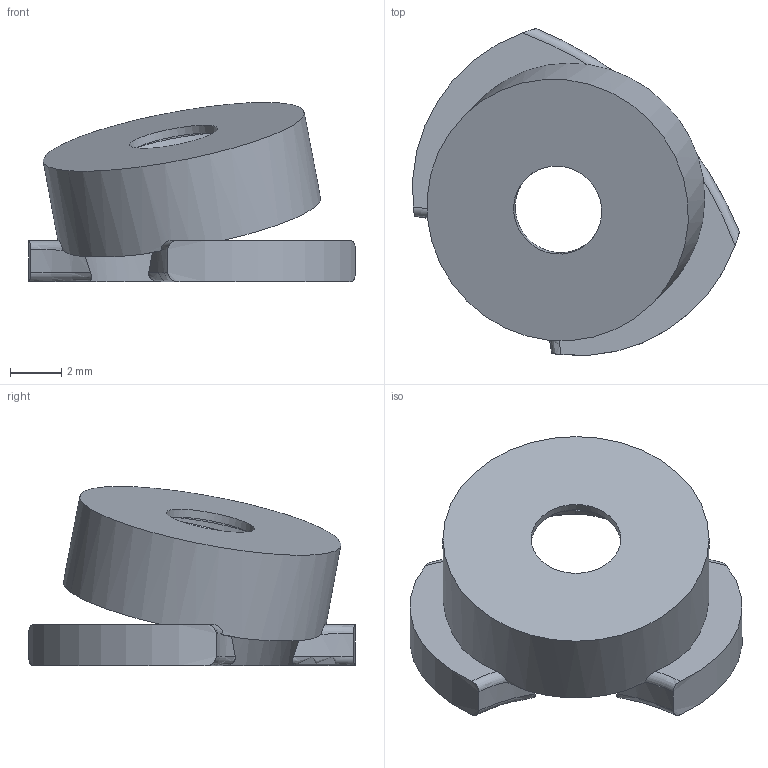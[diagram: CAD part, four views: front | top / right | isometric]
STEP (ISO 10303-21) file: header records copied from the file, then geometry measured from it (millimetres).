
FILE_DESCRIPTION(('Open CASCADE Model'),'2;1');
FILE_NAME('Open CASCADE Shape Model','2026-10-02T16:54:50',('Author'),( 'Open CASCADE'),'Open CASCADE STEP processor 7.9','Open CASCADE 7.9' ,'Unknown');
FILE_SCHEMA(('AUTOMOTIVE_DESIGN { 1 0 10303 214 1 1 1 1 }'));
Length unit declared in the file: millimetre
Products named in the file (1): Open CASCADE STEP translator 7.9 3
Bounding box: 12.77 x 12.77 x 7 mm (x, y, z)
Volume: 202.6 mm3; surface area: 513.7 mm2
Topology: 1 solids, 1 shells, 33 faces, 85 edges, 56 vertices
Faces by surface type: cylinder 14, torus 8, plane 8, bspline 3
Full cylindrical faces by diameter (mm): 3.5 x1, 5.3 x1, 7.3 x1, 10.4 x1
Entity records: 5249 total; most frequent: CARTESIAN_POINT 3697, DIRECTION 243, ORIENTED_EDGE 170, PCURVE 170, DEFINITIONAL_REPRESENTATION 170, B_SPLINE_CURVE_WITH_KNOTS 106, EDGE_CURVE 85, SURFACE_CURVE 82
